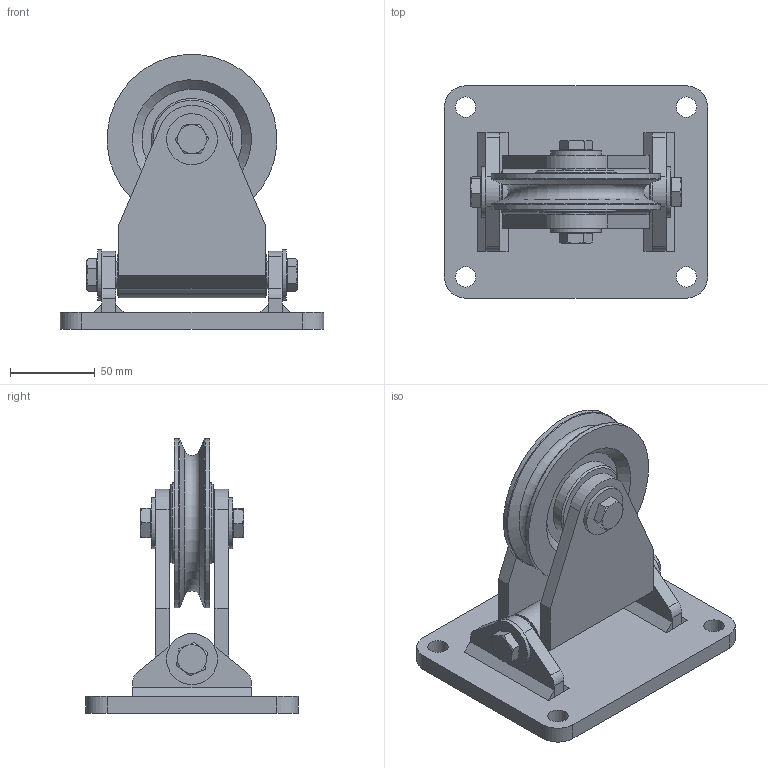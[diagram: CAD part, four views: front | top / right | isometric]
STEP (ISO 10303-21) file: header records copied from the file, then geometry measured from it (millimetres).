
FILE_DESCRIPTION(/* description */ ('Seilrolle ø100 einfach Schwenkbar SE 100 G'),/* implementation_level */ '2;1');
FILE_NAME(/* name */ 'Z:\Workspace\03 Seilrollen\1.409 Seilrollen einfach schwenkbar Gleitlager\1.409.01 Seilrolle ø100 einfach schwenkbar SE 100 G\1.409.01 Seilrolle ø100 einfach Schwenkbar SE 100 G.stp',/* time_stamp */ '2021-10-11T14:34:24+02:00',/* author */ ('cad-user'),/* organization */ (''),/* preprocessor_version */ 'ST-DEVELOPER v18',/* originating_system */ 'Autodesk Inventor 2020',/* authorisation */ '');
FILE_SCHEMA (('AUTOMOTIVE_DESIGN { 1 0 10303 214 3 1 1 }'));
Length unit declared in the file: millimetre
Products named in the file (17): 1.409.01 Seilrolle ø100 einfach schwenkbar SE 100 G; 1.409.01.01 Konsole Schweißteil; 1.409.01.01 Konsole Schweißteil_1; 1.409.01.02 Platte 1; 1.409.01.03 Platte 2; 1.409.01.06  Schwenkkonsole Schweißteil; 1.409.01.06  Schwenkkonsole Schweißteil_1; 1.409.01.05 Rohr; 1.409.01.04 Platte 3; 1.409.01.08 Achse 2; 1.401.03 Seilrolle ø100 Buchse komplett; 1.401.03 Seilrolle ø100 Buchse ; Lagerbuchse 1625-DU; DIN 9021 - 10,5; DIN 933 - M10  x 25; BB1617DU; 1.405.03.02 Achse
Assembly tree (25 placements, depth 3):
  1.409.01 Seilrolle ø100 einfach schwenkbar SE 100 G
    1.409.01.01 Konsole Schweißteil
      1.409.01.01 Konsole Schweißteil_1
      1.409.01.02 Platte 1
      1.409.01.03 Platte 2  x2
    1.409.01.06  Schwenkkonsole Schweißteil
      1.409.01.06  Schwenkkonsole Schweißteil_1
      1.409.01.05 Rohr
      1.409.01.04 Platte 3  x2
    1.409.01.08 Achse 2
    1.401.03 Seilrolle ø100 Buchse komplett
      1.401.03 Seilrolle ø100 Buchse 
      Lagerbuchse 1625-DU
    DIN 9021 - 10,5  x4
    DIN 933 - M10  x 25  x4
    BB1617DU  x2
    1.405.03.02 Achse
Bounding box: 155 x 125 x 161.84 mm (x, y, z)
Volume: 516609.7 mm3; surface area: 167108.2 mm2
Topology: 26 solids, 26 shells, 260 faces, 589 edges, 393 vertices
Faces by surface type: plane 140, cylinder 65, cone 48, torus 7
Full cylindrical faces by diameter (mm): 8.376 x3, 9.188 x4, 10 x4, 10.5 x4, 11 x2, 12 x4, 15.4 x4, 16 x4, 17 x1, 18 x3, 27 x1, 30 x4, 48 x2, 100 x2
Entity records: 5088 total; most frequent: DIRECTION 864, CARTESIAN_POINT 844, ORIENTED_EDGE 688, AXIS2_PLACEMENT_3D 346, EDGE_CURVE 344, VERTEX_POINT 234, EDGE_LOOP 182, LINE 172
